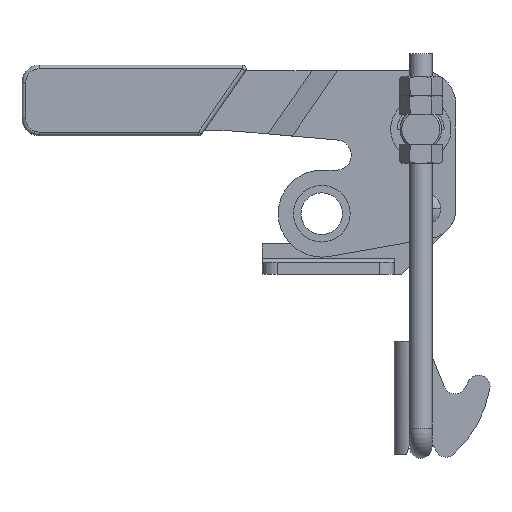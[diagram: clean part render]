
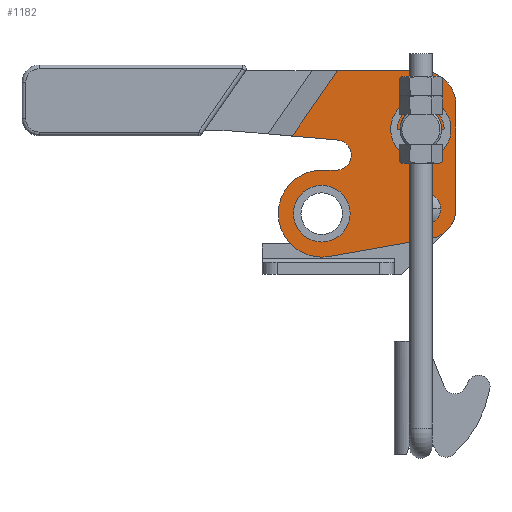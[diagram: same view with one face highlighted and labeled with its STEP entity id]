
A CAD part, left-side view. The second image highlights one B-rep face of the part: STEP entity #1182.
In plain terms, the highlighted planar face has unit normal (-1, 0, 0).
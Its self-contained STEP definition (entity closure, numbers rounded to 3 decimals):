
#1041=CARTESIAN_POINT('Axis2P3D Location',(-6.4,-67.051,43.923)) ;
#1046=CARTESIAN_POINT('Line Origine',(-6.4,-2.745,7.048)) ;
#1050=CARTESIAN_POINT('Cartesian Point',(-6.4,-16.191,9.422)) ;
#1052=CARTESIAN_POINT('Cartesian Point',(-6.4,10.701,4.675)) ;
#1055=CARTESIAN_POINT('Axis2P3D Location',(-6.4,-14.8,17.3)) ;
#1059=CARTESIAN_POINT('Cartesian Point',(-6.4,-22.8,17.3)) ;
#1062=CARTESIAN_POINT('Line Origine',(-6.4,-22.8,31.05)) ;
#1066=CARTESIAN_POINT('Cartesian Point',(-6.4,-22.8,44.8)) ;
#1069=CARTESIAN_POINT('Axis2P3D Location',(-6.4,-13.8,44.8)) ;
#1073=CARTESIAN_POINT('Cartesian Point',(-6.4,-13.8,53.8)) ;
#1076=CARTESIAN_POINT('Line Origine',(-6.4,-2.65,53.8)) ;
#1080=CARTESIAN_POINT('Cartesian Point',(-6.4,8.5,53.8)) ;
#1083=CARTESIAN_POINT('Line Origine',(-6.4,14.5,45.165)) ;
#1087=CARTESIAN_POINT('Cartesian Point',(-6.4,20.5,36.53)) ;
#1090=CARTESIAN_POINT('Line Origine',(-6.4,14.526,36.007)) ;
#1094=CARTESIAN_POINT('Cartesian Point',(-6.4,8.551,35.485)) ;
#1097=CARTESIAN_POINT('Axis2P3D Location',(-6.4,8.9,31.5)) ;
#1101=CARTESIAN_POINT('Cartesian Point',(-6.4,8.9,27.5)) ;
#1104=CARTESIAN_POINT('Line Origine',(-6.4,10.8,27.5)) ;
#1108=CARTESIAN_POINT('Cartesian Point',(-6.4,12.7,27.5)) ;
#1111=CARTESIAN_POINT('Axis2P3D Location',(-6.4,12.7,16.)) ;
#1128=CARTESIAN_POINT('Axis2P3D Location',(-6.4,12.7,16.)) ;
#1132=CARTESIAN_POINT('Cartesian Point',(-6.4,20.2,16.)) ;
#1134=CARTESIAN_POINT('Cartesian Point',(-6.4,5.2,16.)) ;
#1137=CARTESIAN_POINT('Axis2P3D Location',(-6.4,12.7,16.)) ;
#1146=CARTESIAN_POINT('Axis2P3D Location',(-6.4,-14.8,17.3)) ;
#1150=CARTESIAN_POINT('Cartesian Point',(-6.4,-12.3,17.3)) ;
#1152=CARTESIAN_POINT('Cartesian Point',(-6.4,-17.3,17.3)) ;
#1155=CARTESIAN_POINT('Axis2P3D Location',(-6.4,-14.8,17.3)) ;
#1164=CARTESIAN_POINT('Axis2P3D Location',(-6.4,-13.5,38.3)) ;
#1168=CARTESIAN_POINT('Cartesian Point',(-6.4,-8.,38.3)) ;
#1170=CARTESIAN_POINT('Cartesian Point',(-6.4,-19.,38.3)) ;
#1173=CARTESIAN_POINT('Axis2P3D Location',(-6.4,-13.5,38.3)) ;
#1042=DIRECTION('Axis2P3D Direction',(-1.,0.,0.)) ;
#1043=DIRECTION('Axis2P3D XDirection',(0.,-0.571,0.821)) ;
#1047=DIRECTION('Vector Direction',(0.,0.985,-0.174)) ;
#1056=DIRECTION('Axis2P3D Direction',(-1.,0.,0.)) ;
#1063=DIRECTION('Vector Direction',(0.,0.,-1.)) ;
#1070=DIRECTION('Axis2P3D Direction',(-1.,0.,0.)) ;
#1077=DIRECTION('Vector Direction',(0.,-1.,0.)) ;
#1084=DIRECTION('Vector Direction',(0.,0.571,-0.821)) ;
#1091=DIRECTION('Vector Direction',(0.,-0.996,-0.087)) ;
#1098=DIRECTION('Axis2P3D Direction',(-1.,0.,0.)) ;
#1105=DIRECTION('Vector Direction',(0.,1.,0.)) ;
#1112=DIRECTION('Axis2P3D Direction',(-1.,0.,0.)) ;
#1129=DIRECTION('Axis2P3D Direction',(-1.,0.,0.)) ;
#1138=DIRECTION('Axis2P3D Direction',(-1.,0.,0.)) ;
#1147=DIRECTION('Axis2P3D Direction',(-1.,0.,0.)) ;
#1156=DIRECTION('Axis2P3D Direction',(-1.,0.,0.)) ;
#1165=DIRECTION('Axis2P3D Direction',(-1.,0.,0.)) ;
#1174=DIRECTION('Axis2P3D Direction',(-1.,0.,0.)) ;
#1044=AXIS2_PLACEMENT_3D('Plane Axis2P3D',#1041,#1042,#1043) ;
#1057=AXIS2_PLACEMENT_3D('Circle Axis2P3D',#1055,#1056,$) ;
#1071=AXIS2_PLACEMENT_3D('Circle Axis2P3D',#1069,#1070,$) ;
#1099=AXIS2_PLACEMENT_3D('Circle Axis2P3D',#1097,#1098,$) ;
#1113=AXIS2_PLACEMENT_3D('Circle Axis2P3D',#1111,#1112,$) ;
#1130=AXIS2_PLACEMENT_3D('Circle Axis2P3D',#1128,#1129,$) ;
#1139=AXIS2_PLACEMENT_3D('Circle Axis2P3D',#1137,#1138,$) ;
#1148=AXIS2_PLACEMENT_3D('Circle Axis2P3D',#1146,#1147,$) ;
#1157=AXIS2_PLACEMENT_3D('Circle Axis2P3D',#1155,#1156,$) ;
#1166=AXIS2_PLACEMENT_3D('Circle Axis2P3D',#1164,#1165,$) ;
#1175=AXIS2_PLACEMENT_3D('Circle Axis2P3D',#1173,#1174,$) ;
#1117=ORIENTED_EDGE('Oriented Edge',*,*,#1054,.F.) ;
#1118=ORIENTED_EDGE('Oriented Edge',*,*,#1061,.T.) ;
#1119=ORIENTED_EDGE('Oriented Edge',*,*,#1068,.F.) ;
#1120=ORIENTED_EDGE('Oriented Edge',*,*,#1075,.T.) ;
#1121=ORIENTED_EDGE('Oriented Edge',*,*,#1082,.F.) ;
#1122=ORIENTED_EDGE('Oriented Edge',*,*,#1089,.T.) ;
#1123=ORIENTED_EDGE('Oriented Edge',*,*,#1096,.T.) ;
#1124=ORIENTED_EDGE('Oriented Edge',*,*,#1103,.F.) ;
#1125=ORIENTED_EDGE('Oriented Edge',*,*,#1110,.T.) ;
#1126=ORIENTED_EDGE('Oriented Edge',*,*,#1115,.T.) ;
#1143=ORIENTED_EDGE('Oriented Edge',*,*,#1136,.F.) ;
#1144=ORIENTED_EDGE('Oriented Edge',*,*,#1141,.F.) ;
#1161=ORIENTED_EDGE('Oriented Edge',*,*,#1154,.F.) ;
#1162=ORIENTED_EDGE('Oriented Edge',*,*,#1159,.F.) ;
#1179=ORIENTED_EDGE('Oriented Edge',*,*,#1172,.F.) ;
#1180=ORIENTED_EDGE('Oriented Edge',*,*,#1177,.F.) ;
#1145=FACE_BOUND('Face Bound',#1142,.T.) ;
#1163=FACE_BOUND('Face Bound',#1160,.T.) ;
#1181=FACE_BOUND('Face Bound',#1178,.T.) ;
#1048=VECTOR('Line Direction',#1047,1.) ;
#1064=VECTOR('Line Direction',#1063,1.) ;
#1078=VECTOR('Line Direction',#1077,1.) ;
#1085=VECTOR('Line Direction',#1084,1.) ;
#1092=VECTOR('Line Direction',#1091,1.) ;
#1106=VECTOR('Line Direction',#1105,1.) ;
#1182=ADVANCED_FACE('',(#1127,#1145,#1163,#1181),#1045,.T.) ;
#1058=CIRCLE('generated circle',#1057,8.) ;
#1072=CIRCLE('generated circle',#1071,9.) ;
#1100=CIRCLE('generated circle',#1099,4.) ;
#1114=CIRCLE('generated circle',#1113,11.5) ;
#1131=CIRCLE('generated circle',#1130,7.5) ;
#1140=CIRCLE('generated circle',#1139,7.5) ;
#1149=CIRCLE('generated circle',#1148,2.5) ;
#1158=CIRCLE('generated circle',#1157,2.5) ;
#1167=CIRCLE('generated circle',#1166,5.5) ;
#1176=CIRCLE('generated circle',#1175,5.5) ;
#1054=EDGE_CURVE('',#1051,#1053,#1049,.T.) ;
#1061=EDGE_CURVE('',#1051,#1060,#1058,.T.) ;
#1068=EDGE_CURVE('',#1067,#1060,#1065,.T.) ;
#1075=EDGE_CURVE('',#1067,#1074,#1072,.T.) ;
#1082=EDGE_CURVE('',#1081,#1074,#1079,.T.) ;
#1089=EDGE_CURVE('',#1081,#1088,#1086,.T.) ;
#1096=EDGE_CURVE('',#1088,#1095,#1093,.T.) ;
#1103=EDGE_CURVE('',#1102,#1095,#1100,.T.) ;
#1110=EDGE_CURVE('',#1102,#1109,#1107,.T.) ;
#1115=EDGE_CURVE('',#1109,#1053,#1114,.T.) ;
#1136=EDGE_CURVE('',#1133,#1135,#1131,.T.) ;
#1141=EDGE_CURVE('',#1135,#1133,#1140,.T.) ;
#1154=EDGE_CURVE('',#1151,#1153,#1149,.T.) ;
#1159=EDGE_CURVE('',#1153,#1151,#1158,.T.) ;
#1172=EDGE_CURVE('',#1169,#1171,#1167,.T.) ;
#1177=EDGE_CURVE('',#1171,#1169,#1176,.T.) ;
#1116=EDGE_LOOP('Oriented Loop',(#1117,#1118,#1119,#1120,#1121,#1122,#1123,#1124,#1125,#1126)) ;
#1142=EDGE_LOOP('Oriented Loop',(#1143,#1144)) ;
#1160=EDGE_LOOP('Oriented Loop',(#1161,#1162)) ;
#1178=EDGE_LOOP('Oriented Loop',(#1179,#1180)) ;
#1127=FACE_OUTER_BOUND('Face Bound',#1116,.T.) ;
#1049=LINE('Line',#1046,#1048) ;
#1065=LINE('Line',#1062,#1064) ;
#1079=LINE('Line',#1076,#1078) ;
#1086=LINE('Line',#1083,#1085) ;
#1093=LINE('Line',#1090,#1092) ;
#1107=LINE('Line',#1104,#1106) ;
#1045=PLANE('Plane',#1044) ;
#1051=VERTEX_POINT('Vertex Point',#1050) ;
#1053=VERTEX_POINT('Vertex Point',#1052) ;
#1060=VERTEX_POINT('Vertex Point',#1059) ;
#1067=VERTEX_POINT('Vertex Point',#1066) ;
#1074=VERTEX_POINT('Vertex Point',#1073) ;
#1081=VERTEX_POINT('Vertex Point',#1080) ;
#1088=VERTEX_POINT('Vertex Point',#1087) ;
#1095=VERTEX_POINT('Vertex Point',#1094) ;
#1102=VERTEX_POINT('Vertex Point',#1101) ;
#1109=VERTEX_POINT('Vertex Point',#1108) ;
#1133=VERTEX_POINT('Vertex Point',#1132) ;
#1135=VERTEX_POINT('Vertex Point',#1134) ;
#1151=VERTEX_POINT('Vertex Point',#1150) ;
#1153=VERTEX_POINT('Vertex Point',#1152) ;
#1169=VERTEX_POINT('Vertex Point',#1168) ;
#1171=VERTEX_POINT('Vertex Point',#1170) ;
